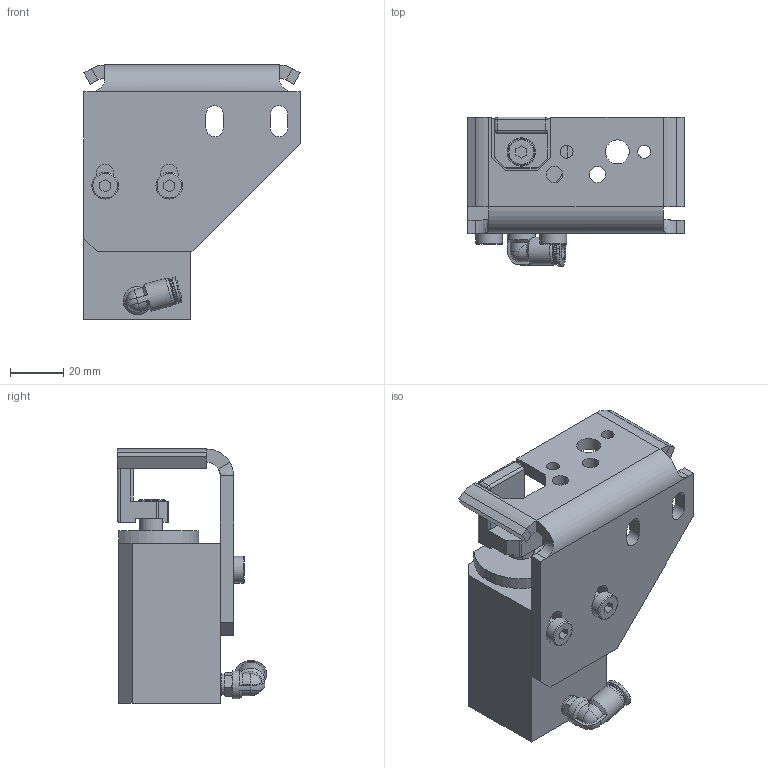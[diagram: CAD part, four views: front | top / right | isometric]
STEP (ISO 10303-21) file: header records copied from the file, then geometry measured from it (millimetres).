
FILE_DESCRIPTION (( 'STEP AP203' ), '1' );
FILE_NAME ('ASUTEC-ASME-60-100-HQ.STEP', '2017-03-24T10:51:40', ( '' ), ( '' ), 'SwSTEP 2.0', 'SolidWorks 2015', '' );
FILE_SCHEMA (( 'CONFIG_CONTROL_DESIGN' ));
Length unit declared in the file: metre
Products named in the file (1): ASUTEC-ASME-60-100-HQ
Bounding box: 81 x 55.9 x 95.3 mm (x, y, z)
Volume: 128468.1 mm3; surface area: 39376.2 mm2
Topology: 3 solids, 3 shells, 449 faces, 1138 edges, 735 vertices
Faces by surface type: plane 262, cylinder 97, bspline 53, cone 22, sphere 8, torus 7
Full cylindrical faces by diameter (mm): 2.1 x2, 2.4 x1, 4.2 x1, 4.8 x2, 5.3 x1, 5.5 x1, 6 x3, 6.1 x2, 8 x2, 8.4 x1, 9 x1, 9.45 x1, 10 x4, 10.5 x2, 10.6 x1, 22 x2
Entity records: 16693 total; most frequent: CARTESIAN_POINT 6325, ORIENTED_EDGE 2154, DIRECTION 1938, EDGE_CURVE 1077, VERTEX_POINT 718, VECTOR 704, LINE 704, AXIS2_PLACEMENT_3D 617
